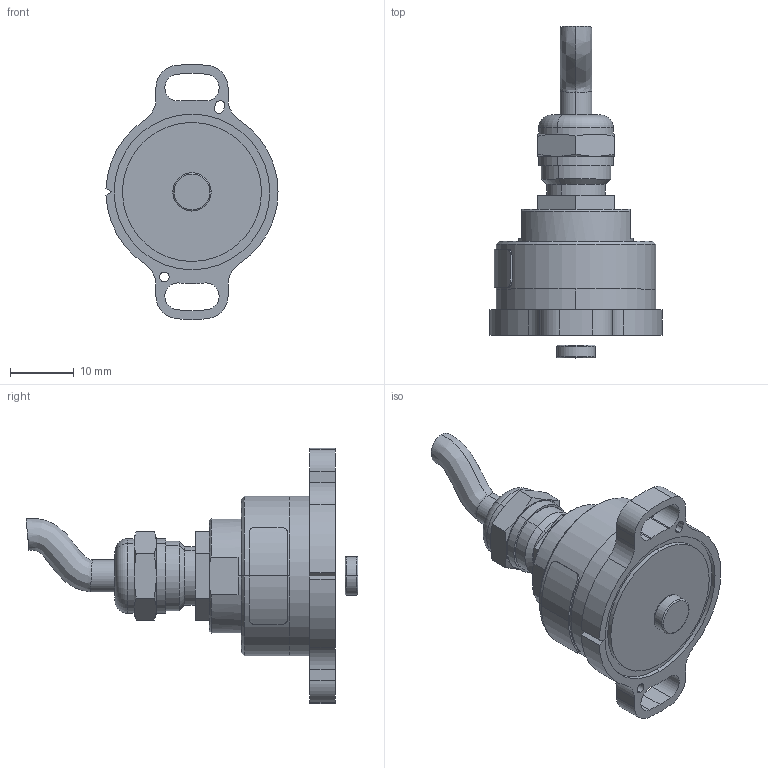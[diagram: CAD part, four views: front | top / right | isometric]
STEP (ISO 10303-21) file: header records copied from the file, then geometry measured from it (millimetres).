
FILE_DESCRIPTION (( 'STEP AP203' ), '1' );
FILE_NAME ('HTx Kit PG S.STEP', '2022-07-29T10:26:53', ( '' ), ( '' ), 'SwSTEP 2.0', 'SolidWorks 2022', '' );
FILE_SCHEMA (( 'CONFIG_CONTROL_DESIGN' ));
Length unit declared in the file: millimetre
Products named in the file (1): HTx Kit PG S
Bounding box: 26.99 x 52.03 x 39.98 mm (x, y, z)
Surface area: 5073.4 mm2 (no closed solid volume)
Topology: 0 solids, 6 shells, 132 faces, 328 edges, 212 vertices
Faces by surface type: cylinder 61, plane 43, cone 20, torus 6, bspline 2
Entity records: 4498 total; most frequent: CARTESIAN_POINT 1227, DIRECTION 704, ORIENTED_EDGE 630, EDGE_CURVE 328, AXIS2_PLACEMENT_3D 287, VERTEX_POINT 212, CIRCLE 156, EDGE_LOOP 152
